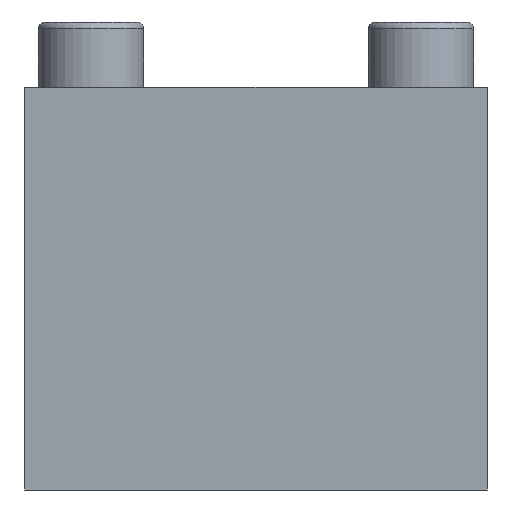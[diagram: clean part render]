
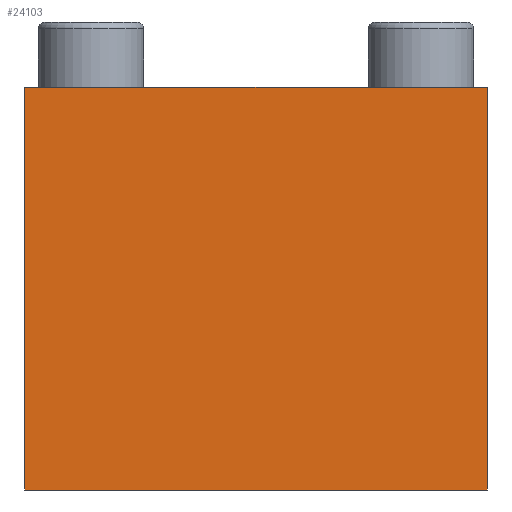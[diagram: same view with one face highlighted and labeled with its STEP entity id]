
A CAD part, front view. The second image highlights one B-rep face of the part: STEP entity #24103.
In plain terms, the highlighted planar face has unit normal (0, -1, 0).
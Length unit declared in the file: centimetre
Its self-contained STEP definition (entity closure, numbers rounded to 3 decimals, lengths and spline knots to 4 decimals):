
#2566=FACE_OUTER_BOUND('',#3864,.T.);
#3864=EDGE_LOOP('',(#16362,#16363,#16364,#16365));
#5340=LINE('',#31230,#7968);
#5344=LINE('',#31239,#7972);
#5345=LINE('',#31240,#7973);
#5346=LINE('',#31241,#7974);
#7968=VECTOR('',#26475,6.1);
#7972=VECTOR('',#26481,6.1);
#7973=VECTOR('',#26482,7.);
#7974=VECTOR('',#26483,7.);
#10664=VERTEX_POINT('',#31228);
#10665=VERTEX_POINT('',#31229);
#10668=VERTEX_POINT('',#31237);
#10669=VERTEX_POINT('',#31238);
#12952=EDGE_CURVE('',#10664,#10665,#5340,.T.);
#12956=EDGE_CURVE('',#10668,#10669,#5344,.T.);
#12957=EDGE_CURVE('',#10664,#10668,#5345,.T.);
#12958=EDGE_CURVE('',#10669,#10665,#5346,.T.);
#16362=ORIENTED_EDGE('',*,*,#12956,.F.);
#16363=ORIENTED_EDGE('',*,*,#12957,.F.);
#16364=ORIENTED_EDGE('',*,*,#12952,.T.);
#16365=ORIENTED_EDGE('',*,*,#12958,.F.);
#23168=PLANE('',#25405);
#24103=ADVANCED_FACE('',(#2566),#23168,.T.);
#25405=AXIS2_PLACEMENT_3D('',#31236,#26479,#26480);
#26475=DIRECTION('',(0.,0.,-1.));
#26479=DIRECTION('center_axis',(0.,-1.,0.));
#26480=DIRECTION('ref_axis',(-1.,0.,0.));
#26481=DIRECTION('',(0.,0.,-1.));
#26482=DIRECTION('',(1.,0.,0.));
#26483=DIRECTION('',(-1.,0.,0.));
#31228=CARTESIAN_POINT('',(-3.5,-20.,4.85));
#31229=CARTESIAN_POINT('',(-3.5,-20.,-1.25));
#31230=CARTESIAN_POINT('',(-3.5,-20.,0.));
#31236=CARTESIAN_POINT('Origin',(3.5,-20.,3.6));
#31237=CARTESIAN_POINT('',(3.5,-20.,4.85));
#31238=CARTESIAN_POINT('',(3.5,-20.,-1.25));
#31239=CARTESIAN_POINT('',(3.5,-20.,0.));
#31240=CARTESIAN_POINT('',(3.5,-20.,4.85));
#31241=CARTESIAN_POINT('',(3.5,-20.,-1.25));
